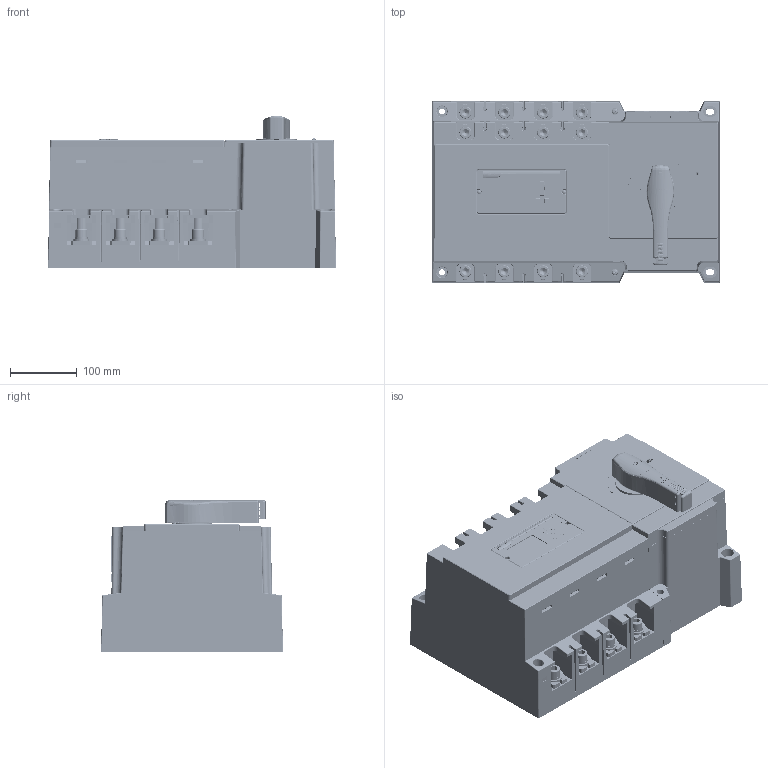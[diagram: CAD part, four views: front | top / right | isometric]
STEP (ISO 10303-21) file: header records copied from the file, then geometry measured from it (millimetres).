
FILE_DESCRIPTION((''),'2;1');
FILE_NAME('NXZ-630_ASM','2018-11-13T',('hongsc'),(''),'CREO PARAMETRIC BY PTC INC, 2015480','CREO PARAMETRIC BY PTC INC, 2015480','');
FILE_SCHEMA(('CONFIG_CONTROL_DESIGN'));
Products named in the file (234): LUO_MU_M8_GB_6177_1__1_1; LUO_MU_M8_GB_6177_1__2_1; LUO_MU_M8_GB_6177_1__ASM_1_ASM; LUO_MU_M12_GB_6177_1__1_1; LUO_MU_M12_GB_6177_1__2_1; LUO_MU_M12_GB_6177_1__ASM_1_ASM; 5ZTD_557_286_MODEL_ASM_1; 5ZTD_223_025_ASM_1; 5ZTD_227_022_MODEL_ASM_1; LUO_DING_ZU_HE_JIAN_M5X10_GB_90; LUO_DING_ZU_HE_JIAN_M4X10_GB_90_ASM; 5ZTD_140_026_MODEL_ASM_1_ASM; LUO_MU_M5X10_GB_809__ASM_1_ASM; _25_1; 5ZTD_315_473_MODEL_ASM_1_ASM; LUO_MU_M5X16_GBT_809__ASM_1_ASM; LUO_MU_M5X12_GB_809__ASM_1_ASM; 5ZTD_024_803_MODEL_1_1; 2-56592_1; 5ZTD_024_803_MODEL_ASM_1_ASM; 8ZTD_557_774_1; LUO_DING_M5X20_GB_6560__ASM_1_ASM; LUO_DING_ZU_HE_JIAN_M5X12_GB_90_ASM; LUO_DING_ZU_HE_JIAN_M3X6_GB_907_ASM; 5ZTD_024_802_MODEL_ASM_1_ASM; 8ZTD_315_1321_1; 8ZTD_557_776_1; 2-56611_1; 5ZTD_024_805_MODEL_ASM_1_ASM; JIE_XIAN_TOU_1; 5ZTD_024_804_MODEL_ASM_1_ASM; DIAN_JI_ASM_1; LUO_DING_M2_5X10_GB_823__1; 5ZTD_123_045_MODEL_ASM_1_ASM; 8ZTD_282_1091_JIE_NXZ-125__1; GUN_ZHU_3_GB_308__1; ZI_GONG_LUO_DING_ST2_9X8_GB_8_1; ZI_GONG_LUO_DING_ST2_9X8_GB_8_2; ZI_GONG_LUO_DING_ST2_9X8_GB_845_ASM; 8ZTD_235_434_JIE_NXZ-125__1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
Assembly tree (408 placements, depth 7):
  NXZ-630_ASM
    NXZ-630_ASM_1_ASM
      2ZTD_644_136_NXZ-630_4A__ASM_1_ASM
        5ZTD_024_802_MODEL_ASM_1_ASM
          LUO_MU_M8_GB_6177_1__ASM_1_ASM  x8
            LUO_MU_M8_GB_6177_1__1_1
            LUO_MU_M8_GB_6177_1__2_1
          LUO_MU_M12_GB_6177_1__ASM_1_ASM  x8
            LUO_MU_M12_GB_6177_1__1_1
            LUO_MU_M12_GB_6177_1__2_1
          5ZTD_557_286_MODEL_ASM_1  x4
          5ZTD_140_026_MODEL_ASM_1_ASM
            5ZTD_223_025_ASM_1
            5ZTD_227_022_MODEL_ASM_1  x2
            LUO_DING_ZU_HE_JIAN_M5X10_GB_90  x4
            LUO_DING_ZU_HE_JIAN_M4X10_GB_90_ASM  x4
          5ZTD_315_473_MODEL_ASM_1_ASM
            LUO_MU_M5X10_GB_809__ASM_1_ASM  x4
            _25_1
          5ZTD_024_803_MODEL_ASM_1_ASM
            LUO_MU_M5X16_GBT_809__ASM_1_ASM  x16
            LUO_MU_M5X12_GB_809__ASM_1_ASM  x8
            5ZTD_024_803_MODEL_1_1
            2-56592_1
          8ZTD_557_774_1  x8
          LUO_DING_M5X20_GB_6560__ASM_1_ASM  x8
          LUO_DING_ZU_HE_JIAN_M5X12_GB_90_ASM  x8
          LUO_DING_ZU_HE_JIAN_M3X6_GB_907_ASM  x4
        5ZTD_024_804_MODEL_ASM_1_ASM
          LUO_DING_ZU_HE_JIAN_M5X10_GB_90  x8
          5ZTD_140_026_MODEL_ASM_1_ASM
            5ZTD_223_025_ASM_1
            5ZTD_227_022_MODEL_ASM_1  x2
            LUO_DING_ZU_HE_JIAN_M5X10_GB_90  x4
            LUO_DING_ZU_HE_JIAN_M4X10_GB_90_ASM  x4
          8ZTD_315_1321_1
          5ZTD_557_286_MODEL_ASM_1  x4
          LUO_DING_M5X20_GB_6560__ASM_1_ASM  x8
          8ZTD_557_776_1  x4
          LUO_MU_M12_GB_6177_1__ASM_1_ASM  x4
            LUO_MU_M12_GB_6177_1__1_1
            LUO_MU_M12_GB_6177_1__2_1
          5ZTD_024_805_MODEL_ASM_1_ASM
            LUO_MU_M5X12_GB_809__ASM_1_ASM  x22
            2-56611_1
          LUO_DING_ZU_HE_JIAN_M3X6_GB_907_ASM  x4
          JIE_XIAN_TOU_1  x4
        5ZTD_123_045_MODEL_ASM_1_ASM
          LUO_DING_ZU_HE_JIAN_M5X12_GB_90_ASM  x4
          DIAN_JI_ASM_1
          LUO_DING_M2_5X10_GB_823__1  x2
        5ZTD_300_176_MODEL_ASM_1_ASM
          8ZTD_282_1091_JIE_NXZ-125__1
          GUN_ZHU_3_GB_308__1  x2
          ZI_GONG_LUO_DING_ST2_9X8_GB_845_ASM  x2
            ZI_GONG_LUO_DING_ST2_9X8_GB_8_1
            ZI_GONG_LUO_DING_ST2_9X8_GB_8_2
          8ZTD_235_434_JIE_NXZ-125__1
          8ZTD_305_080_1
        8ZTD_315_1324_1
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Bounding box: 430 x 272 x 227.6 mm (x, y, z)
Volume: 11080837 mm3; surface area: 2539635.3 mm2
Topology: 266 solids, 347 shells, 16385 faces, 46996 edges, 31869 vertices
Faces by surface type: plane 10169, cylinder 3646, cone 918, torus 766, extrusion 516, bspline 255, sphere 115
Entity records: 533391 total; most frequent: CARTESIAN_POINT 157494, ORIENTED_EDGE 81436, DIRECTION 71061, EDGE_CURVE 40749, VECTOR 28697, LINE 28181, VERTEX_POINT 27893, AXIS2_PLACEMENT_3D 21182
